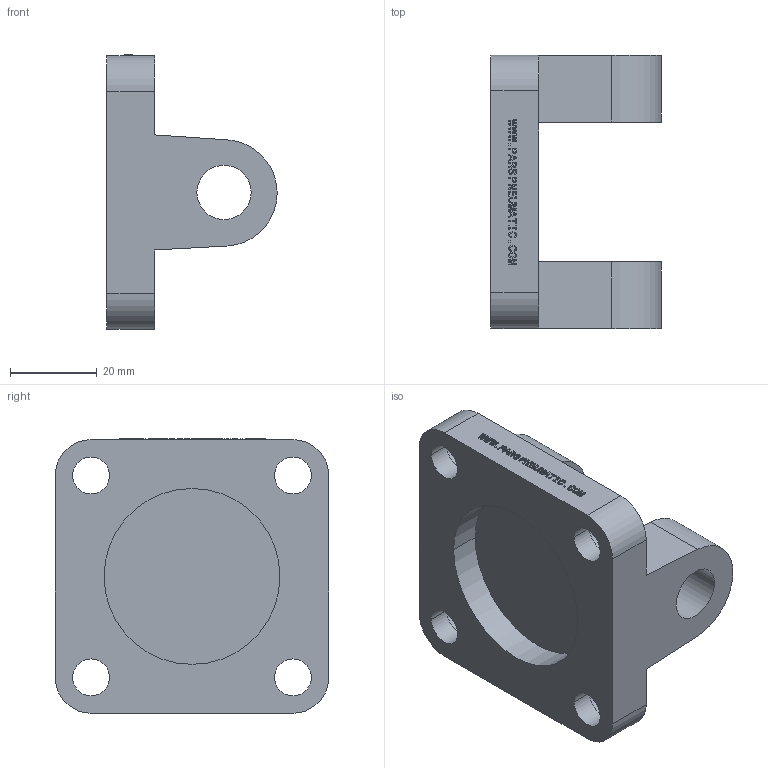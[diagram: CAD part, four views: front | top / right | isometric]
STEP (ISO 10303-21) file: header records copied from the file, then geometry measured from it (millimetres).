
FILE_DESCRIPTION(('CATIA V5 STEP Exchange'),'2;1');
FILE_NAME('D:\stp file for catalog\BAST-CB\CB 50.stp','2018-06-13T06:07:29+00:00',('none'),('none'),'CATIA Version 5-6 Release 2016','CATIA V5 STEP AP203','none');
FILE_SCHEMA(('CONFIG_CONTROL_DESIGN'));
Length unit declared in the file: millimetre
Products named in the file (1): PNC-CB50-01
Bounding box: 39.25 x 63 x 63.2 mm (x, y, z)
Volume: 47046 mm3; surface area: 16853 mm2
Topology: 1 solids, 1 shells, 471 faces, 1311 edges, 874 vertices
Faces by surface type: plane 443, cylinder 28
Entity records: 14250 total; most frequent: ORIENTED_EDGE 2622, CARTESIAN_POINT 2541, DIRECTION 2021, EDGE_CURVE 1311, VECTOR 1255, LINE 1255, VERTEX_POINT 874, EDGE_LOOP 515
